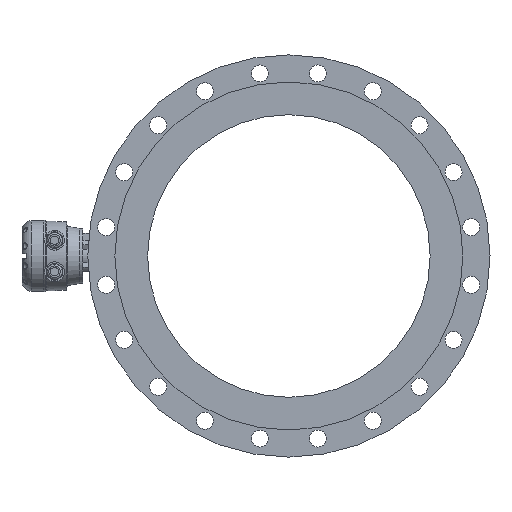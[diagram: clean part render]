
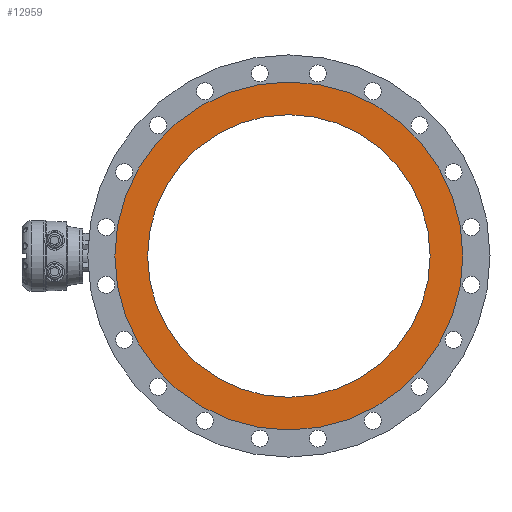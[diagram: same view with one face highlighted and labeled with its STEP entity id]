
A CAD part, left-side view. The second image highlights one B-rep face of the part: STEP entity #12959.
In plain terms, the highlighted planar face has unit normal (-1, 0, 0).
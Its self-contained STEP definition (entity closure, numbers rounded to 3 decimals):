
#1484 = VERTEX_POINT ( 'NONE', #1485 ) ;
#1485 = CARTESIAN_POINT ( 'NONE',  ( -294.805, -308.517, -226.543 ) ) ;
#1632 = EDGE_CURVE ( 'NONE', #1484, #1484, #13689, .T. ) ;
#2410 = VERTEX_POINT ( 'NONE', #2411 ) ;
#2411 = CARTESIAN_POINT ( 'NONE',  ( -294.805, -308.517, 255.457 ) ) ;
#2637 = CARTESIAN_POINT ( 'NONE',  ( -294.805, -308.517, -10.543 ) ) ;
#2645 = DIRECTION ( 'NONE',  ( -1., 0., 0. ) ) ;
#2646 = DIRECTION ( 'NONE',  ( 0., 0., 1. ) ) ;
#7124 = PLANE ( 'NONE',  #11067 ) ;
#7127 = CARTESIAN_POINT ( 'NONE',  ( -294.805, -92.517, -10.543 ) ) ;
#7133 = DIRECTION ( 'NONE',  ( -1., 0., 0. ) ) ;
#7134 = DIRECTION ( 'NONE',  ( 0., 0., 1. ) ) ;
#8606 = EDGE_LOOP ( 'NONE', ( #13286 ) ) ;
#8689 = EDGE_LOOP ( 'NONE', ( #13285 ) ) ;
#9599 = FACE_OUTER_BOUND ( 'NONE', #8606, .T. ) ;
#9600 = FACE_BOUND ( 'NONE', #8689, .T. ) ;
#10279 = CIRCLE ( 'NONE', #11273, 266. ) ;
#10863 = AXIS2_PLACEMENT_3D ( 'NONE', #14355, #14353, #14352 ) ;
#11067 = AXIS2_PLACEMENT_3D ( 'NONE', #7127, #7133, #7134 ) ;
#11273 = AXIS2_PLACEMENT_3D ( 'NONE', #2637, #2645, #2646 ) ;
#12959 = ADVANCED_FACE ( 'NONE', ( #9600, #9599 ), #7124, .T. ) ;
#13285 = ORIENTED_EDGE ( 'NONE', *, *, #1632, .T. ) ;
#13286 = ORIENTED_EDGE ( 'NONE', *, *, #14649, .T. ) ;
#13689 = CIRCLE ( 'NONE', #10863, 216. ) ;
#14352 = DIRECTION ( 'NONE',  ( 0., 0., -1. ) ) ;
#14353 = DIRECTION ( 'NONE',  ( 1., 0., 0. ) ) ;
#14355 = CARTESIAN_POINT ( 'NONE',  ( -294.805, -308.517, -10.543 ) ) ;
#14649 = EDGE_CURVE ( 'NONE', #2410, #2410, #10279, .T. ) ;
